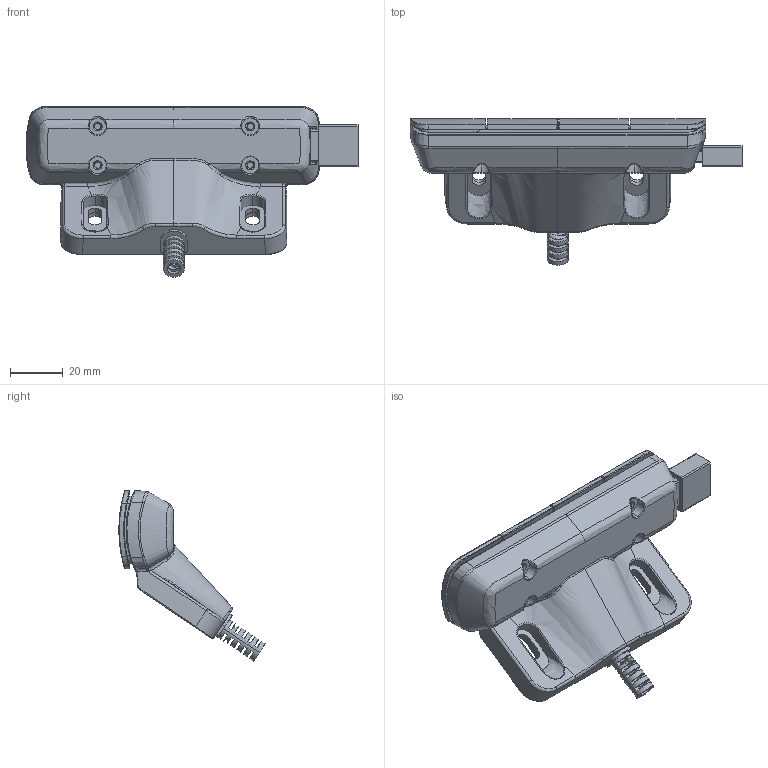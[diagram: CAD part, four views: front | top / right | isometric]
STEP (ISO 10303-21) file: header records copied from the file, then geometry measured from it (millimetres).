
FILE_DESCRIPTION (( 'STEP AP214' ), '1' );
FILE_NAME ('JCHT35K24C.STEP', '2019-10-14T06:25:40', ( '' ), ( '' ), 'SwSTEP 2.0', 'SolidWorks 2018', '' );
FILE_SCHEMA (( 'AUTOMOTIVE_DESIGN' ));
Length unit declared in the file: millimetre
Products named in the file (10): JCHT35K24C-PCB; JCHT35K24B-偌瑩; M7K1; USB; JCHT35K24C-Z; JCHT35K24C-狟褲; JCHT35K24C; JCHT35K24C-奻褲; JCHT35K24B-醱噩; JCHT35K24C-偌瑩
Assembly tree (10 placements, depth 2):
  JCHT35K24C
    JCHT35K24C-狟褲
    JCHT35K24C-奻褲
    M7K1
    JCHT35K24C-PCB
    JCHT35K24C-偌瑩  x2
    JCHT35K24B-醱噩
    JCHT35K24B-偌瑩
    USB
    JCHT35K24C-Z
Bounding box: 126.24 x 55.63 x 64.83 mm (x, y, z)
Volume: 50405.2 mm3; surface area: 58250.7 mm2
Topology: 11 solids, 11 shells, 1426 faces, 3896 edges, 2511 vertices
Faces by surface type: plane 706, cylinder 373, bspline 207, cone 85, sphere 28, torus 27
Entity records: 64535 total; most frequent: CARTESIAN_POINT 31765, ORIENTED_EDGE 7340, DIRECTION 5965, EDGE_CURVE 3670, VERTEX_POINT 2374, AXIS2_PLACEMENT_3D 2005, LINE 1955, VECTOR 1955
